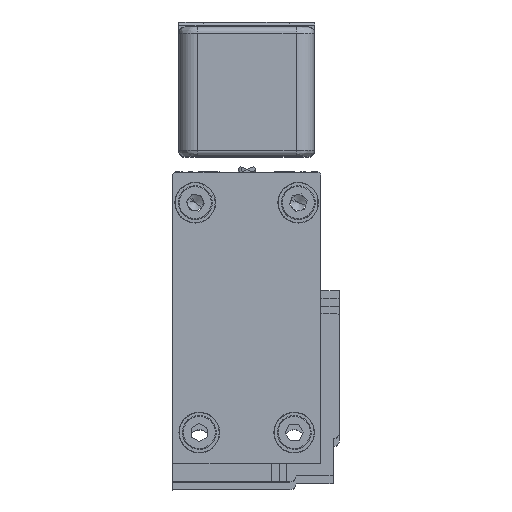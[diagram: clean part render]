
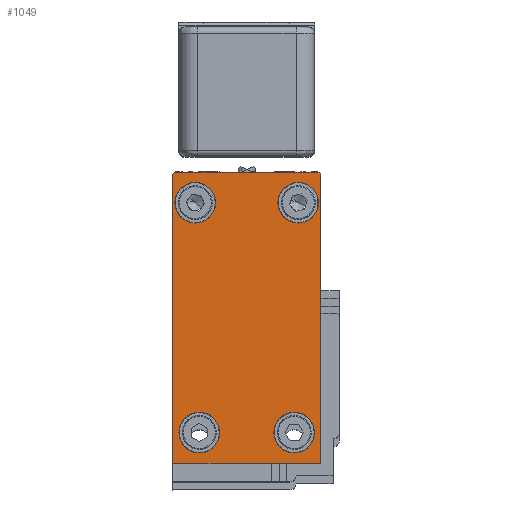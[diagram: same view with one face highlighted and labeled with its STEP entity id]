
A CAD part, top view. The second image highlights one B-rep face of the part: STEP entity #1049.
In plain terms, the highlighted planar face has unit normal (0, 0, 1).
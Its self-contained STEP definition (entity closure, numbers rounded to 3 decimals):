
#37 = AXIS2_PLACEMENT_3D ( 'NONE', #1553, #18359, #3965 ) ;
#41 = DIRECTION ( 'NONE',  ( 0., 0., 1. ) ) ;
#411 = CARTESIAN_POINT ( 'NONE',  ( 5.984, -20.888, 3185. ) ) ;
#807 = AXIS2_PLACEMENT_3D ( 'NONE', #14392, #41, #16831 ) ;
#1039 = AXIS2_PLACEMENT_3D ( 'NONE', #22210, #7830, #24631 ) ;
#1049 = ADVANCED_FACE ( 'NONE', ( #10722, #29907, #5107, #29126, #22751 ), #10250, .T. ) ;
#1097 = EDGE_CURVE ( 'NONE', #11085, #3412, #1332, .T. ) ;
#1098 = VERTEX_POINT ( 'NONE', #10470 ) ;
#1178 = CIRCLE ( 'NONE', #807, 0.5 ) ;
#1332 = CIRCLE ( 'NONE', #2991, 3.302 ) ;
#1369 = AXIS2_PLACEMENT_3D ( 'NONE', #19901, #5558, #22329 ) ;
#1398 = VERTEX_POINT ( 'NONE', #10547 ) ;
#1553 = CARTESIAN_POINT ( 'NONE',  ( -13.714, -15.887, 3185. ) ) ;
#1913 = DIRECTION ( 'NONE',  ( 0., 0., -1. ) ) ;
#2122 = LINE ( 'NONE', #27324, #26892 ) ;
#2397 = DIRECTION ( 'NONE',  ( 0., 0., -1. ) ) ;
#2893 = VERTEX_POINT ( 'NONE', #7089 ) ;
#2991 = AXIS2_PLACEMENT_3D ( 'NONE', #17718, #3334, #20107 ) ;
#3241 = DIRECTION ( 'NONE',  ( 0., 0., -1. ) ) ;
#3332 = CARTESIAN_POINT ( 'NONE',  ( 5.984, -20.888, 3185. ) ) ;
#3334 = DIRECTION ( 'NONE',  ( 0., 0., -1. ) ) ;
#3400 = DIRECTION ( 'NONE',  ( 1., 0., 0. ) ) ;
#3412 = VERTEX_POINT ( 'NONE', #14930 ) ;
#3705 = CARTESIAN_POINT ( 'NONE',  ( 2.335, 21.401, 3185. ) ) ;
#3762 = ORIENTED_EDGE ( 'NONE', *, *, #20222, .T. ) ;
#3965 = DIRECTION ( 'NONE',  ( -1., 0., 0. ) ) ;
#4079 = VERTEX_POINT ( 'NONE', #28269 ) ;
#4267 = CARTESIAN_POINT ( 'NONE',  ( -17.514, 26.371, 3185. ) ) ;
#5107 = FACE_BOUND ( 'NONE', #27128, .T. ) ;
#5486 = VERTEX_POINT ( 'NONE', #29929 ) ;
#5558 = DIRECTION ( 'NONE',  ( 0., 0., 1. ) ) ;
#5678 = CIRCLE ( 'NONE', #1039, 3.302 ) ;
#5763 = DIRECTION ( 'NONE',  ( 0., 1., 0. ) ) ;
#6153 = DIRECTION ( 'NONE',  ( -1., 0., 0. ) ) ;
#6954 = EDGE_CURVE ( 'NONE', #12798, #1098, #1178, .T. ) ;
#7089 = CARTESIAN_POINT ( 'NONE',  ( -1.626, -15.887, 3185. ) ) ;
#7422 = VERTEX_POINT ( 'NONE', #25515 ) ;
#7684 = ORIENTED_EDGE ( 'NONE', *, *, #22609, .T. ) ;
#7825 = VECTOR ( 'NONE', #16134, 1000. ) ;
#7830 = DIRECTION ( 'NONE',  ( 0., 0., -1. ) ) ;
#7835 = ORIENTED_EDGE ( 'NONE', *, *, #8445, .T. ) ;
#8445 = EDGE_CURVE ( 'NONE', #26986, #16843, #2122, .T. ) ;
#8543 = ORIENTED_EDGE ( 'NONE', *, *, #25626, .T. ) ;
#8782 = EDGE_CURVE ( 'NONE', #4079, #5486, #16344, .T. ) ;
#8901 = CIRCLE ( 'NONE', #29102, 3.302 ) ;
#8931 = CIRCLE ( 'NONE', #11420, 3.302 ) ;
#9362 = CIRCLE ( 'NONE', #31172, 3.302 ) ;
#9514 = VECTOR ( 'NONE', #28987, 1000. ) ;
#9579 = VERTEX_POINT ( 'NONE', #4267 ) ;
#9721 = CARTESIAN_POINT ( 'NONE',  ( -18.014, 25.871, 3185. ) ) ;
#10188 = EDGE_CURVE ( 'NONE', #7422, #1398, #8931, .T. ) ;
#10250 = PLANE ( 'NONE',  #1369 ) ;
#10470 = CARTESIAN_POINT ( 'NONE',  ( 5.485, 26.371, 3185. ) ) ;
#10547 = CARTESIAN_POINT ( 'NONE',  ( -10.412, -15.887, 3185. ) ) ;
#10722 = FACE_BOUND ( 'NONE', #12566, .T. ) ;
#10861 = EDGE_LOOP ( 'NONE', ( #13963, #30435 ) ) ;
#11041 = ORIENTED_EDGE ( 'NONE', *, *, #12753, .T. ) ;
#11085 = VERTEX_POINT ( 'NONE', #13071 ) ;
#11420 = AXIS2_PLACEMENT_3D ( 'NONE', #12795, #29628, #15236 ) ;
#12119 = AXIS2_PLACEMENT_3D ( 'NONE', #16264, #1913, #18696 ) ;
#12566 = EDGE_LOOP ( 'NONE', ( #25755, #16457 ) ) ;
#12694 = ORIENTED_EDGE ( 'NONE', *, *, #6954, .T. ) ;
#12753 = EDGE_CURVE ( 'NONE', #13700, #12798, #28788, .T. ) ;
#12795 = CARTESIAN_POINT ( 'NONE',  ( -13.714, -15.887, 3185. ) ) ;
#12798 = VERTEX_POINT ( 'NONE', #23592 ) ;
#12943 = CIRCLE ( 'NONE', #37, 3.302 ) ;
#13071 = CARTESIAN_POINT ( 'NONE',  ( 5.637, 21.401, 3185. ) ) ;
#13698 = CARTESIAN_POINT ( 'NONE',  ( 5.485, 26.371, 3185. ) ) ;
#13700 = VERTEX_POINT ( 'NONE', #22042 ) ;
#13813 = DIRECTION ( 'NONE',  ( 0., 1., 0. ) ) ;
#13920 = DIRECTION ( 'NONE',  ( 0., 0., -1. ) ) ;
#13963 = ORIENTED_EDGE ( 'NONE', *, *, #16393, .T. ) ;
#14033 = VERTEX_POINT ( 'NONE', #9721 ) ;
#14392 = CARTESIAN_POINT ( 'NONE',  ( 5.485, 25.871, 3185. ) ) ;
#14526 = CIRCLE ( 'NONE', #24214, 3.302 ) ;
#14930 = CARTESIAN_POINT ( 'NONE',  ( -0.967, 21.401, 3185. ) ) ;
#15236 = DIRECTION ( 'NONE',  ( -1., 0., 0. ) ) ;
#15716 = LINE ( 'NONE', #3332, #28469 ) ;
#15866 = AXIS2_PLACEMENT_3D ( 'NONE', #16761, #2397, #19157 ) ;
#16134 = DIRECTION ( 'NONE',  ( -1., 0., 0. ) ) ;
#16264 = CARTESIAN_POINT ( 'NONE',  ( -14.365, 21.401, 3185. ) ) ;
#16344 = CIRCLE ( 'NONE', #12119, 3.302 ) ;
#16393 = EDGE_CURVE ( 'NONE', #3412, #11085, #8901, .T. ) ;
#16457 = ORIENTED_EDGE ( 'NONE', *, *, #8782, .T. ) ;
#16761 = CARTESIAN_POINT ( 'NONE',  ( -17.514, 25.871, 3185. ) ) ;
#16831 = DIRECTION ( 'NONE',  ( 0., 1., 0. ) ) ;
#16843 = VERTEX_POINT ( 'NONE', #411 ) ;
#16920 = ORIENTED_EDGE ( 'NONE', *, *, #10188, .T. ) ;
#17210 = CARTESIAN_POINT ( 'NONE',  ( 4.978, -15.887, 3185. ) ) ;
#17409 = EDGE_CURVE ( 'NONE', #14033, #9579, #20003, .T. ) ;
#17618 = CARTESIAN_POINT ( 'NONE',  ( -14.365, 21.401, 3185. ) ) ;
#17718 = CARTESIAN_POINT ( 'NONE',  ( 2.335, 21.401, 3185. ) ) ;
#18359 = DIRECTION ( 'NONE',  ( 0., 0., -1. ) ) ;
#18563 = CARTESIAN_POINT ( 'NONE',  ( 5.984, 7.11, 3185. ) ) ;
#18696 = DIRECTION ( 'NONE',  ( -1., 0., 0. ) ) ;
#19157 = DIRECTION ( 'NONE',  ( 0., 1., 0. ) ) ;
#19754 = ORIENTED_EDGE ( 'NONE', *, *, #17409, .F. ) ;
#19901 = CARTESIAN_POINT ( 'NONE',  ( -18.014, -20.888, 3185. ) ) ;
#20003 = CIRCLE ( 'NONE', #15866, 0.5 ) ;
#20009 = DIRECTION ( 'NONE',  ( -1., 0., 0. ) ) ;
#20107 = DIRECTION ( 'NONE',  ( -1., 0., 0. ) ) ;
#20222 = EDGE_CURVE ( 'NONE', #1398, #7422, #12943, .T. ) ;
#20506 = DIRECTION ( 'NONE',  ( 0., 0., -1. ) ) ;
#20595 = LINE ( 'NONE', #13698, #7825 ) ;
#21790 = CARTESIAN_POINT ( 'NONE',  ( -18.014, -20.888, 3185. ) ) ;
#22042 = CARTESIAN_POINT ( 'NONE',  ( 5.984, 7.11, 3185. ) ) ;
#22210 = CARTESIAN_POINT ( 'NONE',  ( 1.676, -15.887, 3185. ) ) ;
#22329 = DIRECTION ( 'NONE',  ( -1., 0., 0. ) ) ;
#22411 = VECTOR ( 'NONE', #13813, 1000. ) ;
#22482 = ORIENTED_EDGE ( 'NONE', *, *, #27873, .T. ) ;
#22609 = EDGE_CURVE ( 'NONE', #2893, #24015, #9362, .T. ) ;
#22751 = FACE_OUTER_BOUND ( 'NONE', #29488, .T. ) ;
#22931 = EDGE_CURVE ( 'NONE', #16843, #13700, #15716, .T. ) ;
#23187 = EDGE_LOOP ( 'NONE', ( #16920, #3762 ) ) ;
#23592 = CARTESIAN_POINT ( 'NONE',  ( 5.984, 25.871, 3185. ) ) ;
#24015 = VERTEX_POINT ( 'NONE', #17210 ) ;
#24214 = AXIS2_PLACEMENT_3D ( 'NONE', #17618, #3241, #20009 ) ;
#24631 = DIRECTION ( 'NONE',  ( -1., 0., 0. ) ) ;
#24646 = EDGE_CURVE ( 'NONE', #24015, #2893, #5678, .T. ) ;
#25515 = CARTESIAN_POINT ( 'NONE',  ( -17.017, -15.887, 3185. ) ) ;
#25626 = EDGE_CURVE ( 'NONE', #1098, #9579, #20595, .T. ) ;
#25755 = ORIENTED_EDGE ( 'NONE', *, *, #26446, .T. ) ;
#26446 = EDGE_CURVE ( 'NONE', #5486, #4079, #14526, .T. ) ;
#26560 = CARTESIAN_POINT ( 'NONE',  ( -18.014, 25.871, 3185. ) ) ;
#26892 = VECTOR ( 'NONE', #3400, 1000. ) ;
#26986 = VERTEX_POINT ( 'NONE', #21790 ) ;
#27128 = EDGE_LOOP ( 'NONE', ( #7684, #28579 ) ) ;
#27324 = CARTESIAN_POINT ( 'NONE',  ( -18.014, -20.888, 3185. ) ) ;
#27873 = EDGE_CURVE ( 'NONE', #14033, #26986, #28659, .T. ) ;
#28269 = CARTESIAN_POINT ( 'NONE',  ( -11.063, 21.401, 3185. ) ) ;
#28308 = CARTESIAN_POINT ( 'NONE',  ( 1.676, -15.887, 3185. ) ) ;
#28360 = ORIENTED_EDGE ( 'NONE', *, *, #22931, .T. ) ;
#28469 = VECTOR ( 'NONE', #5763, 1000. ) ;
#28579 = ORIENTED_EDGE ( 'NONE', *, *, #24646, .T. ) ;
#28659 = LINE ( 'NONE', #26560, #9514 ) ;
#28788 = LINE ( 'NONE', #18563, #22411 ) ;
#28987 = DIRECTION ( 'NONE',  ( 0., -1., 0. ) ) ;
#29102 = AXIS2_PLACEMENT_3D ( 'NONE', #3705, #20506, #6153 ) ;
#29126 = FACE_BOUND ( 'NONE', #23187, .T. ) ;
#29488 = EDGE_LOOP ( 'NONE', ( #28360, #11041, #12694, #8543, #19754, #22482, #7835 ) ) ;
#29628 = DIRECTION ( 'NONE',  ( 0., 0., -1. ) ) ;
#29907 = FACE_BOUND ( 'NONE', #10861, .T. ) ;
#29929 = CARTESIAN_POINT ( 'NONE',  ( -17.667, 21.401, 3185. ) ) ;
#30435 = ORIENTED_EDGE ( 'NONE', *, *, #1097, .T. ) ;
#30760 = DIRECTION ( 'NONE',  ( -1., 0., 0. ) ) ;
#31172 = AXIS2_PLACEMENT_3D ( 'NONE', #28308, #13920, #30760 ) ;
